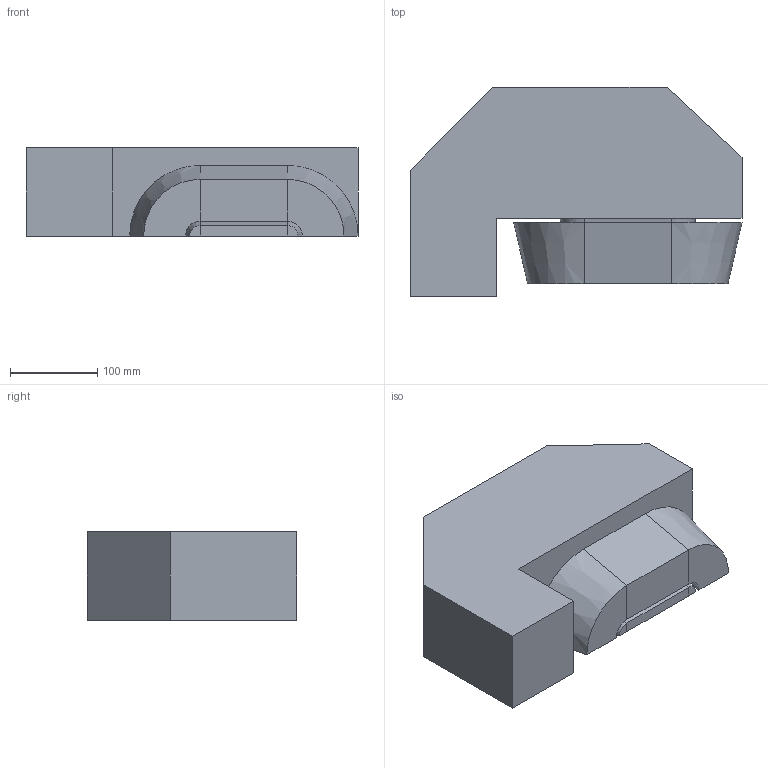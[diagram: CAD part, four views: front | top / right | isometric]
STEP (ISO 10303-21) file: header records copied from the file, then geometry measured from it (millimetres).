
FILE_DESCRIPTION(('STEP AP214'),'1');
FILE_NAME('Superbend_Sirius_MT27_ConicCoil_step.step','2021-11-03T14:13:28',(' '),(' '),'Spatial InterOp 3D',' ',' ');
FILE_SCHEMA(('AUTOMOTIVE_DESIGN { 1 0 10303 214 1 1 1 1 }'));
Length unit declared in the file: millimetre
Products named in the file (1): Pole0ComponentA
Bounding box: 381 x 240 x 101 mm (x, y, z)
Volume: 6921726.5 mm3; surface area: 346584.6 mm2
Topology: 7 solids, 7 shells, 44 faces, 90 edges, 60 vertices
Faces by surface type: plane 38, cone 6
Entity records: 1185 total; most frequent: DIRECTION 204, CARTESIAN_POINT 201, ORIENTED_EDGE 180, EDGE_CURVE 90, LINE 78, VECTOR 78, AXIS2_PLACEMENT_3D 63, VERTEX_POINT 60
